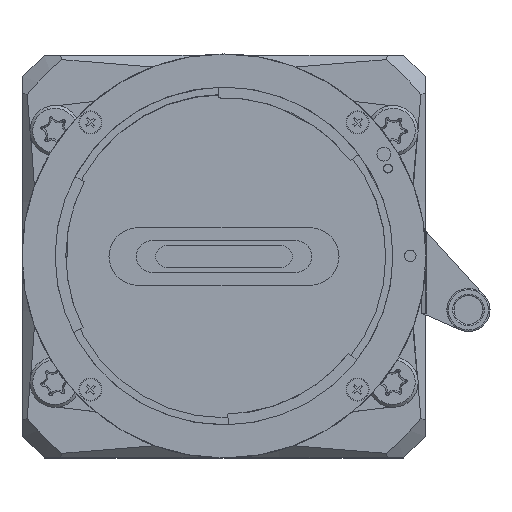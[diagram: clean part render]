
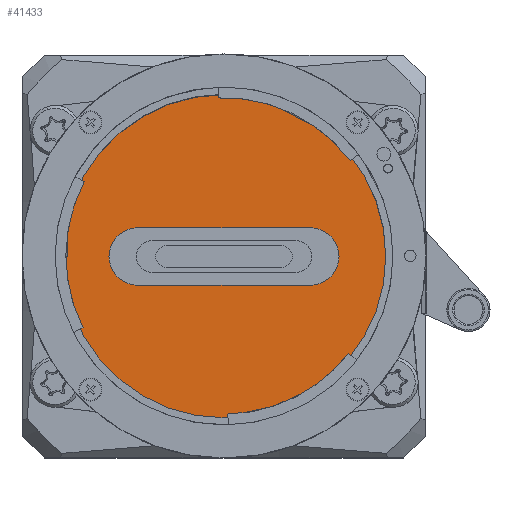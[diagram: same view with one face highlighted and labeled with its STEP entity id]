
A CAD part, top view. The second image highlights one B-rep face of the part: STEP entity #41433.
In plain terms, the highlighted planar face has unit normal (0, 0, 1).
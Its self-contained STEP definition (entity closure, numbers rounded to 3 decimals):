
#948 = CARTESIAN_POINT ( 'NONE',  ( 16., 0., 8.66 ) ) ;
#3833 = CARTESIAN_POINT ( 'NONE',  ( -12., 4., 8.66 ) ) ;
#4513 = FACE_BOUND ( 'NONE', #73414, .T. ) ;
#4574 = DIRECTION ( 'NONE',  ( 1., 0., 0. ) ) ;
#4926 = CARTESIAN_POINT ( 'NONE',  ( 0., 0., 8.66 ) ) ;
#6279 = EDGE_CURVE ( 'NONE', #52201, #48716, #66983, .T. ) ;
#8687 = CARTESIAN_POINT ( 'NONE',  ( 12., 0., 8.66 ) ) ;
#12415 = VERTEX_POINT ( 'NONE', #29325 ) ;
#12686 = EDGE_CURVE ( 'NONE', #30070, #14322, #26230, .T. ) ;
#13151 = CARTESIAN_POINT ( 'NONE',  ( -12., -4., 8.66 ) ) ;
#14322 = VERTEX_POINT ( 'NONE', #30536 ) ;
#16325 = AXIS2_PLACEMENT_3D ( 'NONE', #38943, #75214, #31838 ) ;
#16401 = DIRECTION ( 'NONE',  ( 0., 0., 1. ) ) ;
#17597 = ORIENTED_EDGE ( 'NONE', *, *, #6279, .F. ) ;
#17674 = DIRECTION ( 'NONE',  ( 0., 0., 1. ) ) ;
#19245 = ORIENTED_EDGE ( 'NONE', *, *, #32883, .T. ) ;
#19490 = LINE ( 'NONE', #13151, #34583 ) ;
#24507 = ORIENTED_EDGE ( 'NONE', *, *, #63452, .F. ) ;
#24910 = AXIS2_PLACEMENT_3D ( 'NONE', #53609, #16401, #41750 ) ;
#26230 = CIRCLE ( 'NONE', #72885, 24.5 ) ;
#26965 = DIRECTION ( 'NONE',  ( -1., 0., 0. ) ) ;
#27374 = LINE ( 'NONE', #3833, #66115 ) ;
#27430 = DIRECTION ( 'NONE',  ( 0., 0., 1. ) ) ;
#28507 = DIRECTION ( 'NONE',  ( 0., 0., 1. ) ) ;
#28854 = CARTESIAN_POINT ( 'NONE',  ( 12., 4., 8.66 ) ) ;
#29234 = DIRECTION ( 'NONE',  ( 1., 0., 0. ) ) ;
#29325 = CARTESIAN_POINT ( 'NONE',  ( 12., -4., 8.66 ) ) ;
#30070 = VERTEX_POINT ( 'NONE', #46159 ) ;
#30534 = ORIENTED_EDGE ( 'NONE', *, *, #60421, .F. ) ;
#30536 = CARTESIAN_POINT ( 'NONE',  ( -24.5, 0., 8.66 ) ) ;
#31674 = AXIS2_PLACEMENT_3D ( 'NONE', #8687, #27430, #46366 ) ;
#31838 = DIRECTION ( 'NONE',  ( 1., 0., 0. ) ) ;
#32883 = EDGE_CURVE ( 'NONE', #14322, #30070, #41672, .T. ) ;
#32993 = ORIENTED_EDGE ( 'NONE', *, *, #69193, .F. ) ;
#33859 = ORIENTED_EDGE ( 'NONE', *, *, #12686, .T. ) ;
#34583 = VECTOR ( 'NONE', #68085, 1000. ) ;
#37529 = VERTEX_POINT ( 'NONE', #28854 ) ;
#38224 = CARTESIAN_POINT ( 'NONE',  ( -12., 4., 8.66 ) ) ;
#38943 = CARTESIAN_POINT ( 'NONE',  ( 0., 0., 8.66 ) ) ;
#39720 = CARTESIAN_POINT ( 'NONE',  ( -12., -4., 8.66 ) ) ;
#40687 = DIRECTION ( 'NONE',  ( 1., 0., 0. ) ) ;
#41433 = ADVANCED_FACE ( 'NONE', ( #4513, #65911 ), #47388, .T. ) ;
#41672 = CIRCLE ( 'NONE', #45444, 24.5 ) ;
#41750 = DIRECTION ( 'NONE',  ( 1., 0., 0. ) ) ;
#45444 = AXIS2_PLACEMENT_3D ( 'NONE', #69528, #28507, #4574 ) ;
#46159 = CARTESIAN_POINT ( 'NONE',  ( 24.5, 0., 8.66 ) ) ;
#46366 = DIRECTION ( 'NONE',  ( 1., 0., 0. ) ) ;
#47388 = PLANE ( 'NONE',  #16325 ) ;
#47782 = CARTESIAN_POINT ( 'NONE',  ( -12., 0., 8.66 ) ) ;
#48716 = VERTEX_POINT ( 'NONE', #39720 ) ;
#50693 = ORIENTED_EDGE ( 'NONE', *, *, #74563, .F. ) ;
#51414 = CIRCLE ( 'NONE', #24910, 4. ) ;
#52201 = VERTEX_POINT ( 'NONE', #38224 ) ;
#53194 = AXIS2_PLACEMENT_3D ( 'NONE', #47782, #59188, #40687 ) ;
#53609 = CARTESIAN_POINT ( 'NONE',  ( 12., 0., 8.66 ) ) ;
#55622 = CIRCLE ( 'NONE', #31674, 4. ) ;
#59188 = DIRECTION ( 'NONE',  ( 0., 0., 1. ) ) ;
#60421 = EDGE_CURVE ( 'NONE', #48716, #12415, #19490, .T. ) ;
#60934 = VERTEX_POINT ( 'NONE', #948 ) ;
#63452 = EDGE_CURVE ( 'NONE', #12415, #60934, #51414, .T. ) ;
#65911 = FACE_OUTER_BOUND ( 'NONE', #77710, .T. ) ;
#66115 = VECTOR ( 'NONE', #26965, 1000. ) ;
#66983 = CIRCLE ( 'NONE', #53194, 4. ) ;
#68085 = DIRECTION ( 'NONE',  ( 1., 0., 0. ) ) ;
#69193 = EDGE_CURVE ( 'NONE', #60934, #37529, #55622, .T. ) ;
#69528 = CARTESIAN_POINT ( 'NONE',  ( 0., 0., 8.66 ) ) ;
#72885 = AXIS2_PLACEMENT_3D ( 'NONE', #4926, #17674, #29234 ) ;
#73414 = EDGE_LOOP ( 'NONE', ( #17597, #50693, #32993, #24507, #30534 ) ) ;
#74563 = EDGE_CURVE ( 'NONE', #37529, #52201, #27374, .T. ) ;
#75214 = DIRECTION ( 'NONE',  ( 0., 0., 1. ) ) ;
#77710 = EDGE_LOOP ( 'NONE', ( #33859, #19245 ) ) ;
